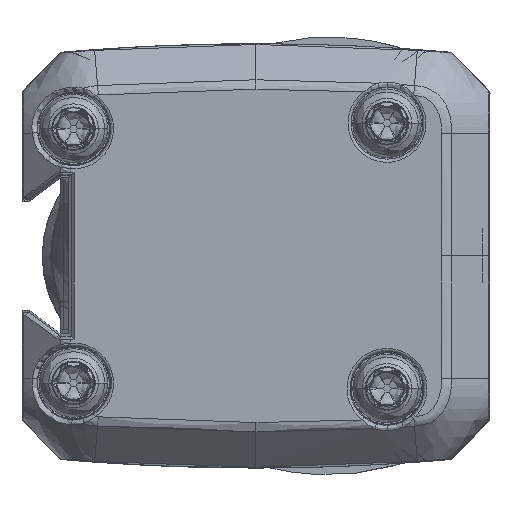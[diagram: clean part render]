
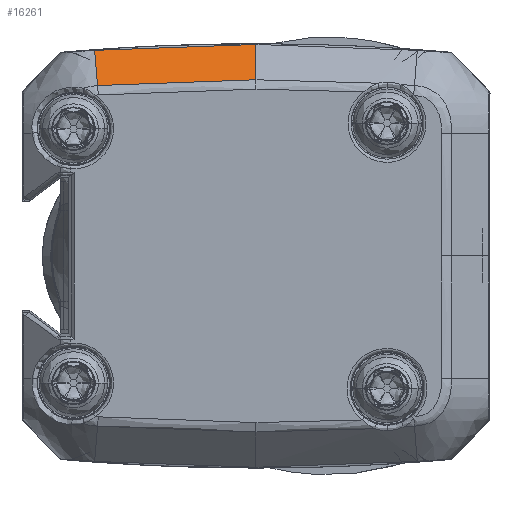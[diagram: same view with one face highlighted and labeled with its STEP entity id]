
A CAD part, left-side view. The second image highlights one B-rep face of the part: STEP entity #16261.
In plain terms, the highlighted free-form (B-spline) face has degree [3, 3] with [6, 4] control points.
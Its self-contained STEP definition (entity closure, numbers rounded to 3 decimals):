
#5608=CARTESIAN_POINT('',(11.288,-0.495,
254.67));
#5634=CARTESIAN_POINT('',(11.288,-0.495,
254.67));
#5635=CARTESIAN_POINT('',(11.288,2.893,254.67));
#5636=CARTESIAN_POINT('',(11.166,6.282,254.67));
#5637=CARTESIAN_POINT('',(10.92,9.66,254.67));
#6054=DIRECTION('',(0.695,0.057,-0.717));
#6055=VECTOR('',#6054,3.246);
#6056=CARTESIAN_POINT('',(10.92,9.66,254.67));
#6057=LINE('',#6056,#6055);
#7173=DIRECTION('',(-0.697,0.,0.717));
#7174=VECTOR('',#7173,3.247);
#7175=CARTESIAN_POINT('',(13.55,-0.495,
252.341));
#7176=LINE('',#7175,#7174);
#7197=CARTESIAN_POINT('',(13.175,9.846,252.342));
#7198=CARTESIAN_POINT('',(13.425,6.406,252.342));
#7199=CARTESIAN_POINT('',(13.55,2.955,252.341));
#7200=CARTESIAN_POINT('',(13.55,-0.495,
252.341));
#7206=CARTESIAN_POINT('',(13.175,9.846,252.342));
#7214=CARTESIAN_POINT('',(13.55,-0.495,
252.341));
#8258=VERTEX_POINT('',#5608);
#8260=VERTEX_POINT('',#5637);
#8265=VERTEX_POINT('',#7214);
#8267=VERTEX_POINT('',#7206);
#16229=CARTESIAN_POINT('',(13.595,-0.703,
252.294));
#16230=CARTESIAN_POINT('',(12.811,-0.701,
253.101));
#16231=CARTESIAN_POINT('',(12.026,-0.7,
253.908));
#16232=CARTESIAN_POINT('',(11.242,-0.699,
254.716));
#16233=CARTESIAN_POINT('',(13.595,-0.634,
252.294));
#16234=CARTESIAN_POINT('',(12.811,-0.633,
253.101));
#16235=CARTESIAN_POINT('',(12.027,-0.632,
253.908));
#16236=CARTESIAN_POINT('',(11.242,-0.631,
254.716));
#16237=CARTESIAN_POINT('',(13.598,2.887,252.294));
#16238=CARTESIAN_POINT('',(12.813,2.866,253.101));
#16239=CARTESIAN_POINT('',(12.029,2.845,253.908));
#16240=CARTESIAN_POINT('',(11.245,2.824,254.716));
#16241=CARTESIAN_POINT('',(13.468,6.477,252.294));
#16242=CARTESIAN_POINT('',(12.684,6.433,253.101));
#16243=CARTESIAN_POINT('',(11.901,6.39,253.908));
#16244=CARTESIAN_POINT('',(11.117,6.347,254.716));
#16245=CARTESIAN_POINT('',(13.211,9.988,252.294));
#16246=CARTESIAN_POINT('',(12.429,9.923,253.101));
#16247=CARTESIAN_POINT('',(11.647,9.858,253.908));
#16248=CARTESIAN_POINT('',(10.865,9.793,254.716));
#16249=CARTESIAN_POINT('',(13.206,10.057,252.294));
#16250=CARTESIAN_POINT('',(12.424,9.991,253.101));
#16251=CARTESIAN_POINT('',(11.642,9.926,253.908));
#16252=CARTESIAN_POINT('',(10.86,9.86,254.716));
#16253=B_SPLINE_SURFACE_WITH_KNOTS('',3,3,((#16229,#16230,#16231,#16232),
(#16233,#16234,#16235,#16236),(#16237,#16238,#16239,#16240),(#16241,#16242,
#16243,#16244),(#16245,#16246,#16247,#16248),(#16249,#16250,#16251,#16252)),
.UNSPECIFIED.,.F.,.F.,.F.,(4,1,1,4),(4,4),(-0.02,0.,1.,1.02),
(0.001,0.92),.UNSPECIFIED.);
#16254=ORIENTED_EDGE('',*,*,#10375,.T.);
#16255=ORIENTED_EDGE('',*,*,#11762,.T.);
#16257=ORIENTED_EDGE('',*,*,#16256,.T.);
#16258=ORIENTED_EDGE('',*,*,#16167,.T.);
#16259=EDGE_LOOP('',(#16254,#16255,#16257,#16258));
#16260=FACE_OUTER_BOUND('',#16259,.F.);
#16261=ADVANCED_FACE('',(#16260),#16253,.T.);
#5638=B_SPLINE_CURVE_WITH_KNOTS('',3,(#5634,#5635,#5636,#5637),.UNSPECIFIED.,
.F.,.F.,(4,4),(0.,1.),.UNSPECIFIED.);
#7201=B_SPLINE_CURVE_WITH_KNOTS('',3,(#7197,#7198,#7199,#7200),.UNSPECIFIED.,
.F.,.F.,(4,4),(0.,1.),.UNSPECIFIED.);
#10375=EDGE_CURVE('',#8258,#8260,#5638,.T.);
#11762=EDGE_CURVE('',#8260,#8267,#6057,.T.);
#16167=EDGE_CURVE('',#8265,#8258,#7176,.T.);
#16256=EDGE_CURVE('',#8267,#8265,#7201,.T.);
